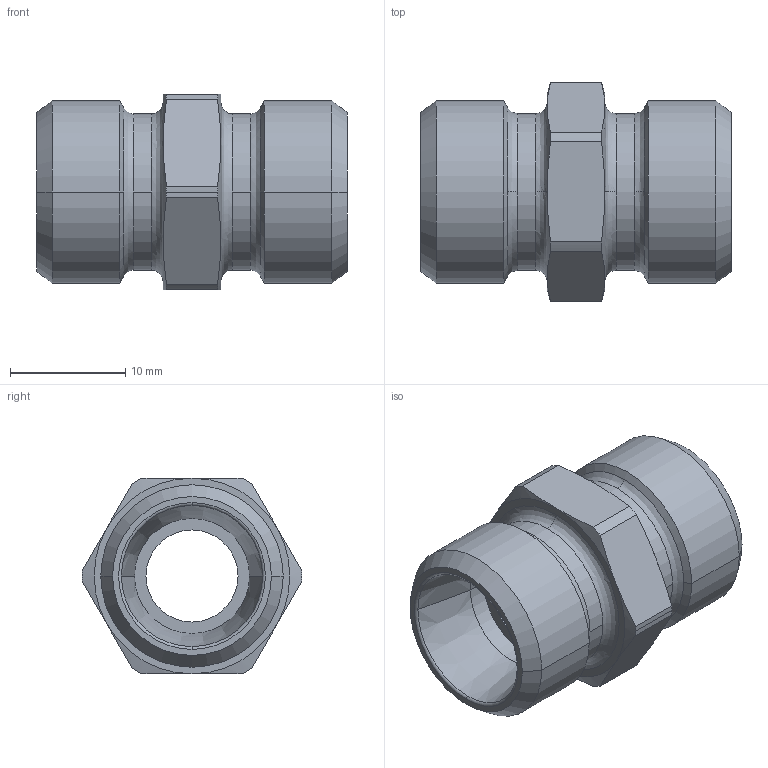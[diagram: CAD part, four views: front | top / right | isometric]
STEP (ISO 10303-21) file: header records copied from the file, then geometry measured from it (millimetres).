
FILE_DESCRIPTION((''),'2;1');
FILE_NAME('103506.stp','2007-10-31T11:34:36',(''),(''),'AutoCAD STEP 2000i','AutoCAD 2000i',', , ');
FILE_SCHEMA(('CONFIG_CONTROL_DESIGN'));
Length unit declared in the file: millimetre
Products named in the file (2): 103506.0; CHIAVE SMUSSATA#0
Assembly tree (1 placements, depth 2):
  103506.0
    CHIAVE SMUSSATA#0
Bounding box: 27 x 19.1 x 17 mm (x, y, z)
Volume: 3196.5 mm3; surface area: 2501 mm2
Topology: 1 solids, 1 shells, 70 faces, 172 edges, 108 vertices
Faces by surface type: cone 24, cylinder 22, plane 12, bspline 8, torus 4
Entity records: 2513 total; most frequent: CARTESIAN_POINT 752, DIRECTION 384, ORIENTED_EDGE 344, AXIS2_PLACEMENT_3D 172, EDGE_CURVE 172, VERTEX_POINT 108, CIRCLE 108, EDGE_LOOP 76
